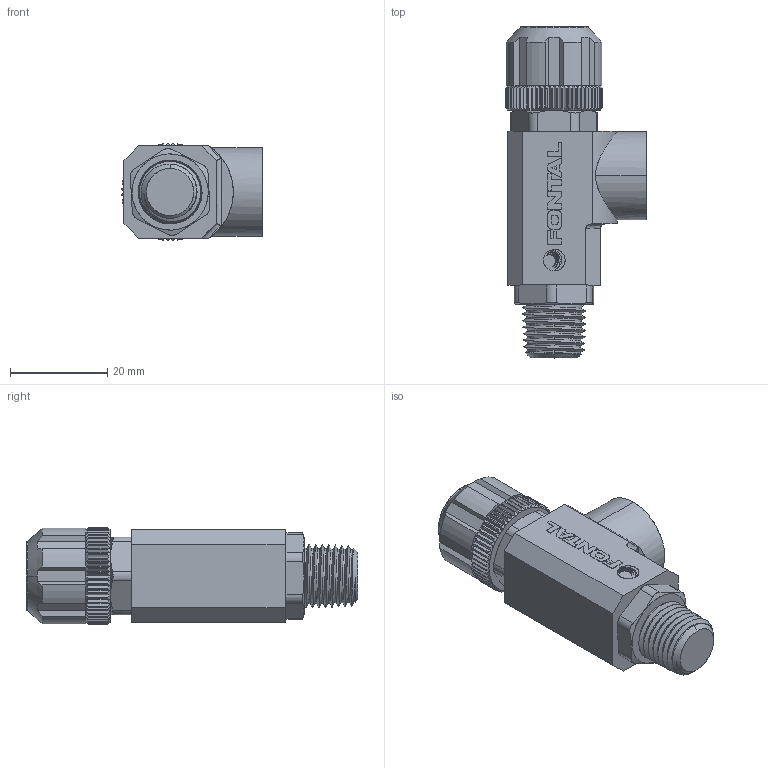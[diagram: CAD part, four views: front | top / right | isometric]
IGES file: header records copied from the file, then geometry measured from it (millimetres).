
Start section: SolidWorks IGES file using analytic representation for surfaces
Global section: file name: D:\Custom\3D繪製\Z-H\06\SPE-06-2.IGS,1; native system: 5HSolidWorks 2014; preprocessor: SolidWorks 2014; author: Chieh_Lu; date: 160115.041523; units: millimetre
Bounding box: 28.99 x 68.3 x 19.98 mm (x, y, z)
Surface area: 8738 mm2 (no closed solid volume)
Topology: 0 solids, 0 shells, 460 faces, 3966 edges, 3963 vertices
Faces by surface type: bspline 257, revolution 203
